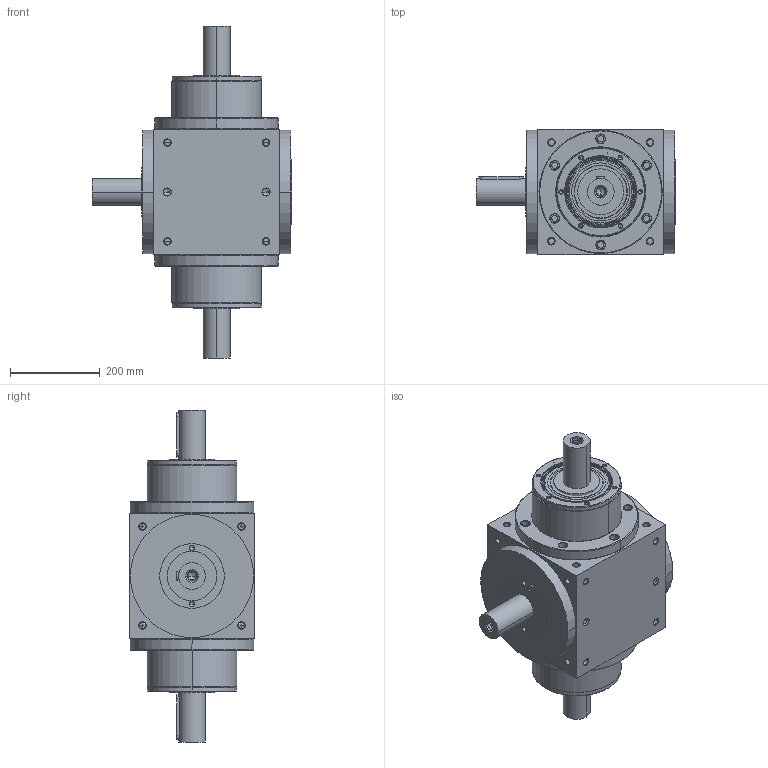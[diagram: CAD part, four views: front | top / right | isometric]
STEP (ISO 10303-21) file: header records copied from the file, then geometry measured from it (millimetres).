
FILE_DESCRIPTION((''),'2;1');
FILE_NAME('AT280LM-1_ASM','2010-02-09T',('d00080'),(''),'PRO/ENGINEER BY PARAMETRIC TECHNOLOGY CORPORATION, 2008170','PRO/ENGINEER BY PARAMETRIC TECHNOLOGY CORPORATION, 2008170','');
FILE_SCHEMA(('CONFIG_CONTROL_DESIGN'));
Length unit declared in the file: millimetre
Products named in the file (4): ATLM-HOUSING-1-A; P1801A00001; 22400071010; AT280LM-1_ASM
Assembly tree (5 placements, depth 2):
  AT280LM-1_ASM
    ATLM-HOUSING-1-A
    P1801A00001  x2
    22400071010  x2
Bounding box: 444 x 280 x 740 mm (x, y, z)
Volume: 31842175.6 mm3; surface area: 1325404.6 mm2
Topology: 7 solids, 46 shells, 853 faces, 2037 edges, 1205 vertices
Faces by surface type: cylinder 370, cone 300, plane 113, torus 70
Entity records: 18450 total; most frequent: CARTESIAN_POINT 3837, DIRECTION 3283, ORIENTED_EDGE 2762, EDGE_CURVE 1447, AXIS2_PLACEMENT_3D 1376, VERTEX_POINT 906, CIRCLE 744, EDGE_LOOP 737
